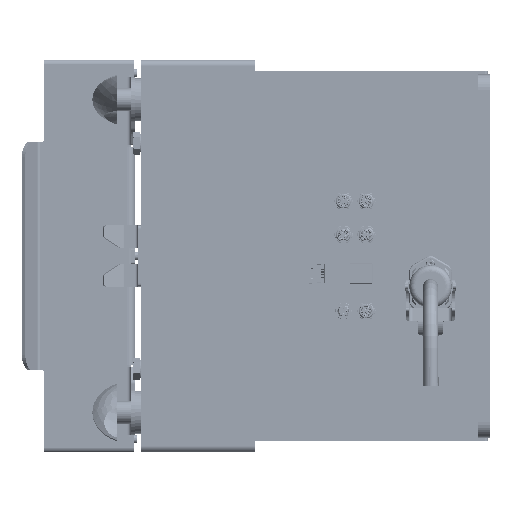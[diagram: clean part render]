
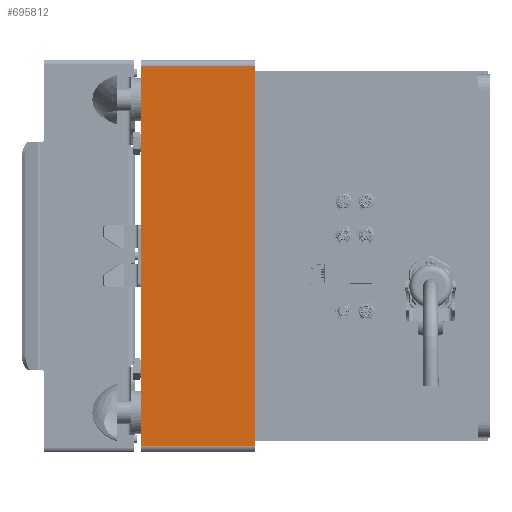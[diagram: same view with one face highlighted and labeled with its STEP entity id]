
A CAD part, left-side view. The second image highlights one B-rep face of the part: STEP entity #695812.
In plain terms, the highlighted planar face has unit normal (-1, 0, 0).
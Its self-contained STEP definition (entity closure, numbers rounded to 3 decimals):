
#39683 = VERTEX_POINT ( 'NONE', #701627 ) ;
#44651 = ORIENTED_EDGE ( 'NONE', *, *, #509435, .F. ) ;
#47227 = VERTEX_POINT ( 'NONE', #664351 ) ;
#60507 = VECTOR ( 'NONE', #167568, 1000. ) ;
#86045 = DIRECTION ( 'NONE',  ( 0., 0., -1. ) ) ;
#123128 = FACE_OUTER_BOUND ( 'NONE', #446008, .T. ) ;
#138585 = ORIENTED_EDGE ( 'NONE', *, *, #462996, .T. ) ;
#167568 = DIRECTION ( 'NONE',  ( 0., 0., 1. ) ) ;
#237128 = VERTEX_POINT ( 'NONE', #668653 ) ;
#240209 = CARTESIAN_POINT ( 'NONE',  ( -235.25, 228.5, 128.5 ) ) ;
#273125 = CARTESIAN_POINT ( 'NONE',  ( -235.25, 228.5, 124.5 ) ) ;
#288509 = CARTESIAN_POINT ( 'NONE',  ( -235.25, 228.5, -124.5 ) ) ;
#296433 = DIRECTION ( 'NONE',  ( 0., 0., 1. ) ) ;
#302429 = VECTOR ( 'NONE', #551690, 1000. ) ;
#308387 = PLANE ( 'NONE',  #588153 ) ;
#379051 = ORIENTED_EDGE ( 'NONE', *, *, #380940, .T. ) ;
#380940 = EDGE_CURVE ( 'NONE', #47227, #39683, #636182, .T. ) ;
#396793 = VECTOR ( 'NONE', #496943, 1000. ) ;
#420229 = DIRECTION ( 'NONE',  ( -1., 0., 0. ) ) ;
#432983 = LINE ( 'NONE', #607572, #302429 ) ;
#446008 = EDGE_LOOP ( 'NONE', ( #138585, #379051, #663285, #44651 ) ) ;
#462996 = EDGE_CURVE ( 'NONE', #527690, #47227, #432983, .T. ) ;
#496943 = DIRECTION ( 'NONE',  ( 0., 1., 0. ) ) ;
#501456 = CARTESIAN_POINT ( 'NONE',  ( -235.25, 154., 124.5 ) ) ;
#509435 = EDGE_CURVE ( 'NONE', #527690, #237128, #659593, .T. ) ;
#510277 = EDGE_CURVE ( 'NONE', #39683, #237128, #693166, .T. ) ;
#527690 = VERTEX_POINT ( 'NONE', #288509 ) ;
#551690 = DIRECTION ( 'NONE',  ( 0., -1., 0. ) ) ;
#588153 = AXIS2_PLACEMENT_3D ( 'NONE', #698011, #420229, #86045 ) ;
#607572 = CARTESIAN_POINT ( 'NONE',  ( -235.25, 228.5, -124.5 ) ) ;
#636182 = LINE ( 'NONE', #501456, #60507 ) ;
#642039 = VECTOR ( 'NONE', #296433, 1000. ) ;
#659593 = LINE ( 'NONE', #240209, #642039 ) ;
#663285 = ORIENTED_EDGE ( 'NONE', *, *, #510277, .T. ) ;
#664351 = CARTESIAN_POINT ( 'NONE',  ( -235.25, 154., -124.5 ) ) ;
#668653 = CARTESIAN_POINT ( 'NONE',  ( -235.25, 228.5, 124.5 ) ) ;
#693166 = LINE ( 'NONE', #273125, #396793 ) ;
#695812 = ADVANCED_FACE ( 'NONE', ( #123128 ), #308387, .T. ) ;
#698011 = CARTESIAN_POINT ( 'NONE',  ( -235.25, 224.5, 0. ) ) ;
#701627 = CARTESIAN_POINT ( 'NONE',  ( -235.25, 154., 124.5 ) ) ;
